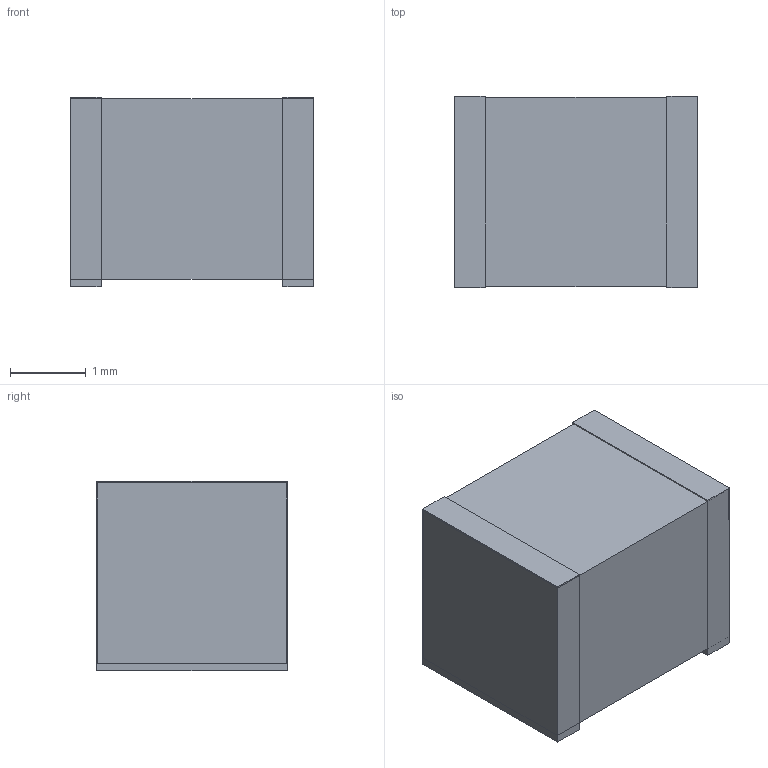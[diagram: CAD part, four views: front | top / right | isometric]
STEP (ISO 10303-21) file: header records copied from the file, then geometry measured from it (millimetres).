
FILE_DESCRIPTION(('FreeCAD Model'),'2;1');
FILE_NAME('Open CASCADE Shape Model','2026-09-21T21:53:17',('FreeCAD'),( 'FreeCAD'),'Open CASCADE STEP processor 7.8','FreeCAD','Unknown');
FILE_SCHEMA(('AUTOMOTIVE_DESIGN { 1 0 10303 214 1 1 1 1 }'));
Length unit declared in the file: millimetre
Products named in the file (1): Open CASCADE STEP translator 7.8 12
Bounding box: 3.2 x 2.52 x 2.5 mm (x, y, z)
Surface area: 76.4 mm2
Topology: 3 solids, 3 shells, 18 faces, 36 edges, 24 vertices
Faces by surface type: plane 18
Entity records: 466 total; most frequent: CARTESIAN_POINT 79, DIRECTION 74, ORIENTED_EDGE 72, EDGE_CURVE 36, LINE 36, VECTOR 36, VERTEX_POINT 24, AXIS2_PLACEMENT_3D 19
